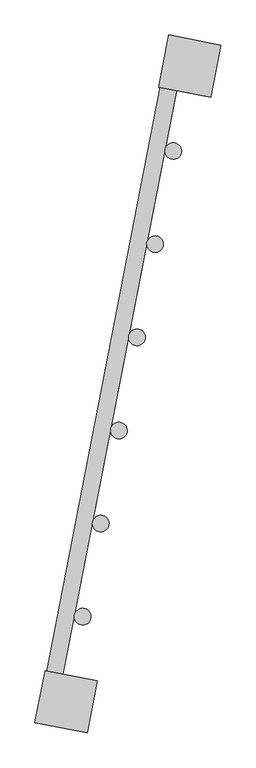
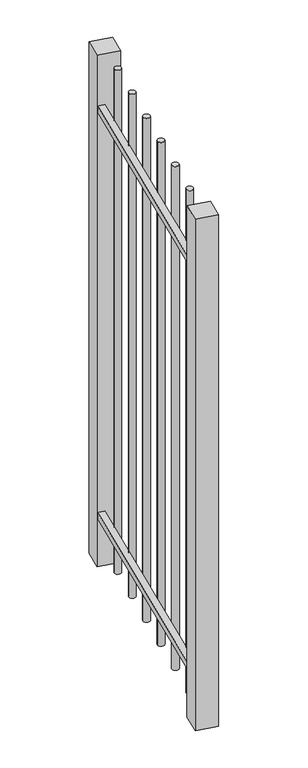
"""IFC4 building model written with IfcOpenShell, lengths in millimetres: railing geometry, GRADIL V 200 01."""

from ifc_helpers import new_model, si_unit, point, frame, frame_2d, origin, origin_with_axes, place, context, project, spatial, polyline, circle_curve, trimmed, segment, composite_curve, outline, extrude, source, transform, mapped, element, save


def railing_bfe3bd23(model_context):
    return source(origin(), model_context, "Body", "SweptSolid", [
        extrude(outline(polyline([(45353.8763704, 17544.8072356), (45378.4155382, 17540.0292401), (45187.2957179, 16558.462526), (45162.75655, 16563.2405215), (45353.8763704, 17544.8072356)])), frame((0.0, 0.0, 1787.5), z_axis=(0.0, 0.0, 1.0), x_axis=(1.0, 0.0, 0.0)), (0.0, 0.0, 1.0), 25.0),
        extrude(outline(polyline([(45353.8763704, 17544.8072356), (45378.4155382, 17540.0292401), (45187.2957179, 16558.462526), (45162.75655, 16563.2405215), (45353.8763704, 17544.8072356)])), frame((0.0, 0.0, 187.5), z_axis=(0.0, 0.0, 1.0), x_axis=(1.0, 0.0, 0.0)), (0.0, 0.0, 1.0), 25.0),
        extrude(outline(composite_curve([segment(trimmed(circle_curve(frame_2d((45226.8681333, 16696.2973445)), 12.5), [point((45239.1377172, 16693.9083468))], [point((45214.5985493, 16698.6863423))], False, "CARTESIAN"), True, "CONTINUOUS"), segment(trimmed(circle_curve(frame_2d((45226.8681333, 16696.2973445)), 12.5), [point((45214.5985493, 16698.6863423))], [point((45239.1377172, 16693.9083468))], False, "CARTESIAN"), True, "CONTINUOUS")], self_intersect=False)), frame((0.0, 0.0, 30.0), z_axis=(0.0, 0.0, 1.0), x_axis=(1.0, 0.0, 0.0)), (0.0, 0.0, 1.0), 1982.5),
        extrude(outline(composite_curve([segment(trimmed(circle_curve(frame_2d((45254.1709648, 16836.5211608)), 12.5), [point((45266.4405487, 16834.1321631))], [point((45241.9013808, 16838.9101586))], False, "CARTESIAN"), True, "CONTINUOUS"), segment(trimmed(circle_curve(frame_2d((45254.1709648, 16836.5211608)), 12.5), [point((45241.9013808, 16838.9101586))], [point((45266.4405487, 16834.1321631))], False, "CARTESIAN"), True, "CONTINUOUS")], self_intersect=False)), frame((0.0, 0.0, 30.0), z_axis=(0.0, 0.0, 1.0), x_axis=(1.0, 0.0, 0.0)), (0.0, 0.0, 1.0), 1982.5),
        extrude(outline(composite_curve([segment(trimmed(circle_curve(frame_2d((45281.4737962, 16976.7449771)), 12.5), [point((45293.7433802, 16974.3559794))], [point((45269.2042123, 16979.1339749))], False, "CARTESIAN"), True, "CONTINUOUS"), segment(trimmed(circle_curve(frame_2d((45281.4737962, 16976.7449771)), 12.5), [point((45269.2042123, 16979.1339749))], [point((45293.7433802, 16974.3559794))], False, "CARTESIAN"), True, "CONTINUOUS")], self_intersect=False)), frame((0.0, 0.0, 30.0), z_axis=(0.0, 0.0, 1.0), x_axis=(1.0, 0.0, 0.0)), (0.0, 0.0, 1.0), 1982.5),
        extrude(outline(composite_curve([segment(trimmed(circle_curve(frame_2d((45308.7766277, 17116.9687935)), 12.5), [point((45321.0462116, 17114.5797957))], [point((45296.5070438, 17119.3577912))], False, "CARTESIAN"), True, "CONTINUOUS"), segment(trimmed(circle_curve(frame_2d((45308.7766277, 17116.9687935)), 12.5), [point((45296.5070438, 17119.3577912))], [point((45321.0462116, 17114.5797957))], False, "CARTESIAN"), True, "CONTINUOUS")], self_intersect=False)), frame((0.0, 0.0, 30.0), z_axis=(0.0, 0.0, 1.0), x_axis=(1.0, 0.0, 0.0)), (0.0, 0.0, 1.0), 1982.5),
        extrude(outline(composite_curve([segment(trimmed(circle_curve(frame_2d((45336.0794592, 17257.1926098)), 12.5), [point((45348.3490431, 17254.803612))], [point((45323.8098753, 17259.5816075))], False, "CARTESIAN"), True, "CONTINUOUS"), segment(trimmed(circle_curve(frame_2d((45336.0794592, 17257.1926098)), 12.5), [point((45323.8098753, 17259.5816075))], [point((45348.3490431, 17254.803612))], False, "CARTESIAN"), True, "CONTINUOUS")], self_intersect=False)), frame((0.0, 0.0, 30.0), z_axis=(0.0, 0.0, 1.0), x_axis=(1.0, 0.0, 0.0)), (0.0, 0.0, 1.0), 1982.5),
        extrude(outline(composite_curve([segment(trimmed(circle_curve(frame_2d((45363.3822907, 17397.4164261)), 12.5), [point((45375.6518746, 17395.0274283))], [point((45351.1127068, 17399.8054238))], False, "CARTESIAN"), True, "CONTINUOUS"), segment(trimmed(circle_curve(frame_2d((45363.3822907, 17397.4164261)), 12.5), [point((45351.1127068, 17399.8054238))], [point((45375.6518746, 17395.0274283))], False, "CARTESIAN"), True, "CONTINUOUS")], self_intersect=False)), frame((0.0, 0.0, 30.0), z_axis=(0.0, 0.0, 1.0), x_axis=(1.0, 0.0, 0.0)), (0.0, 0.0, 1.0), 1982.5),
        extrude(outline(polyline([(45170.3364238, 16615.2505735), (45248.8617609, 16599.9609879), (45233.5721753, 16521.4356508), (45155.0468382, 16536.7252364), (45170.3364238, 16615.2505735)])), origin_with_axes(), (0.0, 0.0, 1.0), 2012.5),
        extrude(outline(polyline([(45356.6782487, 17572.2781198), (45435.2035858, 17556.9885342), (45419.9140002, 17478.4631971), (45341.388663, 17493.7527827), (45356.6782487, 17572.2781198)])), origin_with_axes(), (0.0, 0.0, 1.0), 2012.5),
    ])


if __name__ == "__main__":
    model = new_model("IFC4")
    model_context = context("Model", 3, world=origin())
    ifc_project = project(units=[si_unit("LENGTHUNIT", "METRE", prefix="MILLI")], contexts=[model_context])
    site = spatial("IfcSite", under=ifc_project)
    building = spatial("IfcBuilding", under=site)
    placement = place(None, origin())
    railing_shape = railing_bfe3bd23(model_context)
    element("IfcRailing", 1, ObjectType="GRADIL V 200 01", at=placement, inside=building, context=model_context, shape_type="MappedRepresentation", body=[
        mapped(railing_shape, transform((0.0, 0.0, 0.0), x_axis=(1.0, 0.0, 0.0), y_axis=(0.0, 1.0, 0.0), z_axis=(0.0, 0.0, 1.0))),
    ])
    save(model, "model.ifc")
